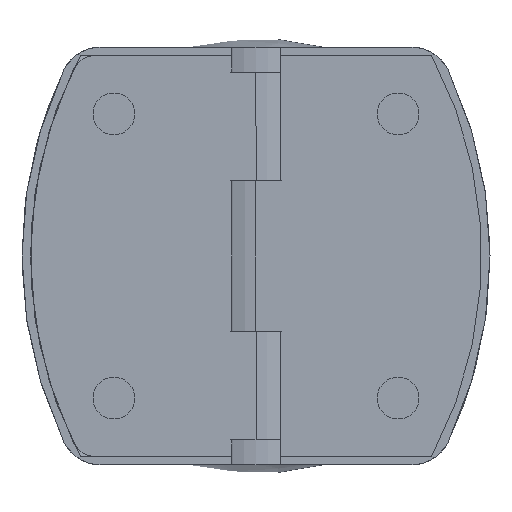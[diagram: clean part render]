
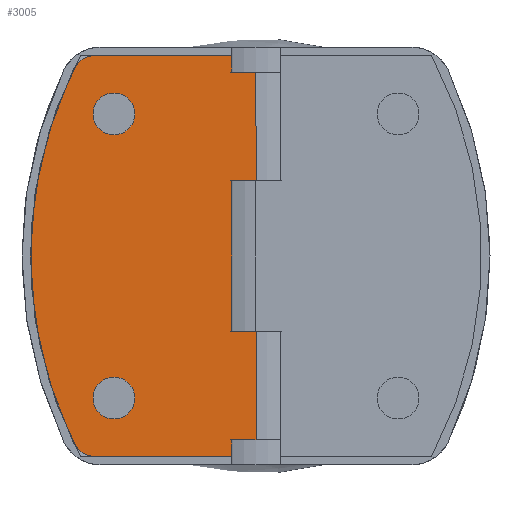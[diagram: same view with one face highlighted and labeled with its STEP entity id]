
A CAD part, front view. The second image highlights one B-rep face of the part: STEP entity #3005.
In plain terms, the highlighted planar face has unit normal (0, -1, 0).
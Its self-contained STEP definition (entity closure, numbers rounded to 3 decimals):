
#150=FACE_BOUND('',#613,.T.);
#151=FACE_BOUND('',#614,.T.);
#272=CIRCLE('',#3228,2.5);
#273=CIRCLE('',#3230,2.5);
#287=CIRCLE('',#3257,3.);
#288=CIRCLE('',#3259,51.);
#289=CIRCLE('',#3261,3.);
#430=FACE_OUTER_BOUND('',#612,.T.);
#612=EDGE_LOOP('',(#2436,#2437,#2438,#2439,#2440,#2441,#2442,#2443,#2444,
#2445,#2446,#2447,#2448,#2449));
#613=EDGE_LOOP('',(#2450));
#614=EDGE_LOOP('',(#2451));
#783=LINE('',#5247,#1028);
#788=LINE('',#5259,#1033);
#841=LINE('',#5535,#1086);
#845=LINE('',#5552,#1090);
#846=LINE('',#5555,#1091);
#847=LINE('',#5556,#1092);
#848=LINE('',#5558,#1093);
#849=LINE('',#5560,#1094);
#850=LINE('',#5561,#1095);
#851=LINE('',#5563,#1096);
#852=LINE('',#5564,#1097);
#1028=VECTOR('',#3679,13.);
#1033=VECTOR('',#3690,13.);
#1086=VECTOR('',#3867,16.29);
#1090=VECTOR('',#3889,16.29);
#1091=VECTOR('',#3892,2.);
#1092=VECTOR('',#3893,2.872);
#1093=VECTOR('',#3894,2.872);
#1094=VECTOR('',#3895,18.);
#1095=VECTOR('',#3896,2.872);
#1096=VECTOR('',#3897,2.872);
#1097=VECTOR('',#3898,2.);
#1338=VERTEX_POINT('',#5244);
#1339=VERTEX_POINT('',#5246);
#1342=VERTEX_POINT('',#5256);
#1343=VERTEX_POINT('',#5258);
#1387=VERTEX_POINT('',#5383);
#1388=VERTEX_POINT('',#5386);
#1403=VERTEX_POINT('',#5532);
#1404=VERTEX_POINT('',#5534);
#1405=VERTEX_POINT('',#5538);
#1406=VERTEX_POINT('',#5542);
#1407=VERTEX_POINT('',#5546);
#1408=VERTEX_POINT('',#5550);
#1409=VERTEX_POINT('',#5554);
#1410=VERTEX_POINT('',#5557);
#1411=VERTEX_POINT('',#5559);
#1412=VERTEX_POINT('',#5562);
#1677=EDGE_CURVE('',#1338,#1339,#783,.T.);
#1684=EDGE_CURVE('',#1342,#1343,#788,.T.);
#1746=EDGE_CURVE('',#1387,#1387,#272,.T.);
#1747=EDGE_CURVE('',#1388,#1388,#273,.T.);
#1772=EDGE_CURVE('',#1403,#1404,#841,.T.);
#1775=EDGE_CURVE('',#1405,#1403,#287,.T.);
#1777=EDGE_CURVE('',#1405,#1406,#288,.T.);
#1779=EDGE_CURVE('',#1407,#1406,#289,.T.);
#1781=EDGE_CURVE('',#1408,#1407,#845,.T.);
#1782=EDGE_CURVE('',#1408,#1409,#846,.T.);
#1783=EDGE_CURVE('',#1409,#1343,#847,.T.);
#1784=EDGE_CURVE('',#1342,#1410,#848,.T.);
#1785=EDGE_CURVE('',#1410,#1411,#849,.T.);
#1786=EDGE_CURVE('',#1411,#1339,#850,.T.);
#1787=EDGE_CURVE('',#1338,#1412,#851,.T.);
#1788=EDGE_CURVE('',#1412,#1404,#852,.T.);
#2436=ORIENTED_EDGE('',*,*,#1775,.F.);
#2437=ORIENTED_EDGE('',*,*,#1777,.T.);
#2438=ORIENTED_EDGE('',*,*,#1779,.F.);
#2439=ORIENTED_EDGE('',*,*,#1781,.F.);
#2440=ORIENTED_EDGE('',*,*,#1782,.T.);
#2441=ORIENTED_EDGE('',*,*,#1783,.T.);
#2442=ORIENTED_EDGE('',*,*,#1684,.F.);
#2443=ORIENTED_EDGE('',*,*,#1784,.T.);
#2444=ORIENTED_EDGE('',*,*,#1785,.T.);
#2445=ORIENTED_EDGE('',*,*,#1786,.T.);
#2446=ORIENTED_EDGE('',*,*,#1677,.F.);
#2447=ORIENTED_EDGE('',*,*,#1787,.T.);
#2448=ORIENTED_EDGE('',*,*,#1788,.T.);
#2449=ORIENTED_EDGE('',*,*,#1772,.F.);
#2450=ORIENTED_EDGE('',*,*,#1746,.T.);
#2451=ORIENTED_EDGE('',*,*,#1747,.T.);
#2863=PLANE('',#3264);
#3005=ADVANCED_FACE('',(#430,#150,#151),#2863,.T.);
#3228=AXIS2_PLACEMENT_3D('',#5384,#3806,#3807);
#3230=AXIS2_PLACEMENT_3D('',#5387,#3810,#3811);
#3257=AXIS2_PLACEMENT_3D('',#5540,#3873,#3874);
#3259=AXIS2_PLACEMENT_3D('',#5544,#3878,#3879);
#3261=AXIS2_PLACEMENT_3D('',#5548,#3883,#3884);
#3264=AXIS2_PLACEMENT_3D('',#5553,#3890,#3891);
#3679=DIRECTION('',(0.,0.,-1.));
#3690=DIRECTION('',(0.,0.,-1.));
#3806=DIRECTION('center_axis',(0.,1.,0.));
#3807=DIRECTION('ref_axis',(-1.,0.,0.));
#3810=DIRECTION('center_axis',(0.,1.,0.));
#3811=DIRECTION('ref_axis',(-1.,0.,0.));
#3867=DIRECTION('',(1.,0.,0.));
#3873=DIRECTION('center_axis',(0.,1.,0.));
#3874=DIRECTION('ref_axis',(-0.53,0.,0.848));
#3878=DIRECTION('center_axis',(0.,-1.,0.));
#3879=DIRECTION('ref_axis',(-0.882,0.,0.471));
#3883=DIRECTION('center_axis',(0.,1.,0.));
#3884=DIRECTION('ref_axis',(-0.53,0.,-0.848));
#3889=DIRECTION('',(-1.,0.,0.));
#3890=DIRECTION('center_axis',(0.,-1.,0.));
#3891=DIRECTION('ref_axis',(-1.,0.,0.));
#3892=DIRECTION('',(0.,0.,1.));
#3893=DIRECTION('',(1.,0.,0.));
#3894=DIRECTION('',(-1.,0.,0.));
#3895=DIRECTION('',(0.,0.,1.));
#3896=DIRECTION('',(1.,0.,0.));
#3897=DIRECTION('',(-1.,0.,0.));
#3898=DIRECTION('',(0.,0.,1.));
#5244=CARTESIAN_POINT('',(0.,0.,-2.));
#5246=CARTESIAN_POINT('',(0.,0.,-15.));
#5247=CARTESIAN_POINT('',(0.,0.,0.));
#5256=CARTESIAN_POINT('',(0.,0.,-33.));
#5258=CARTESIAN_POINT('',(0.,0.,-46.));
#5259=CARTESIAN_POINT('',(0.,0.,0.));
#5383=CARTESIAN_POINT('',(-14.5,0.,-7.));
#5384=CARTESIAN_POINT('Origin',(-17.,0.,-7.));
#5386=CARTESIAN_POINT('',(-14.5,0.,-41.));
#5387=CARTESIAN_POINT('Origin',(-17.,0.,-41.));
#5532=CARTESIAN_POINT('',(-19.162,0.,0.));
#5534=CARTESIAN_POINT('',(-2.872,0.,0.));
#5535=CARTESIAN_POINT('',(-27.,0.,0.));
#5538=CARTESIAN_POINT('',(-21.86,0.,-1.687));
#5540=CARTESIAN_POINT('Origin',(-19.162,0.,-3.));
#5542=CARTESIAN_POINT('',(-21.86,0.,-46.313));
#5544=CARTESIAN_POINT('Origin',(24.,0.,-24.));
#5546=CARTESIAN_POINT('',(-19.162,0.,-48.));
#5548=CARTESIAN_POINT('Origin',(-19.162,0.,-45.));
#5550=CARTESIAN_POINT('',(-2.872,0.,-48.));
#5552=CARTESIAN_POINT('',(-27.,0.,-48.));
#5553=CARTESIAN_POINT('Origin',(0.,0.,0.));
#5554=CARTESIAN_POINT('',(-2.872,0.,-46.));
#5555=CARTESIAN_POINT('',(-2.872,0.,-47.));
#5556=CARTESIAN_POINT('',(-2.125,0.,-46.));
#5557=CARTESIAN_POINT('',(-2.872,0.,-33.));
#5558=CARTESIAN_POINT('',(-2.125,0.,-33.));
#5559=CARTESIAN_POINT('',(-2.872,0.,-15.));
#5560=CARTESIAN_POINT('',(-2.872,0.,-24.));
#5561=CARTESIAN_POINT('',(-2.125,0.,-15.));
#5562=CARTESIAN_POINT('',(-2.872,0.,-2.));
#5563=CARTESIAN_POINT('',(-2.125,0.,-2.));
#5564=CARTESIAN_POINT('',(-2.872,0.,-1.));
